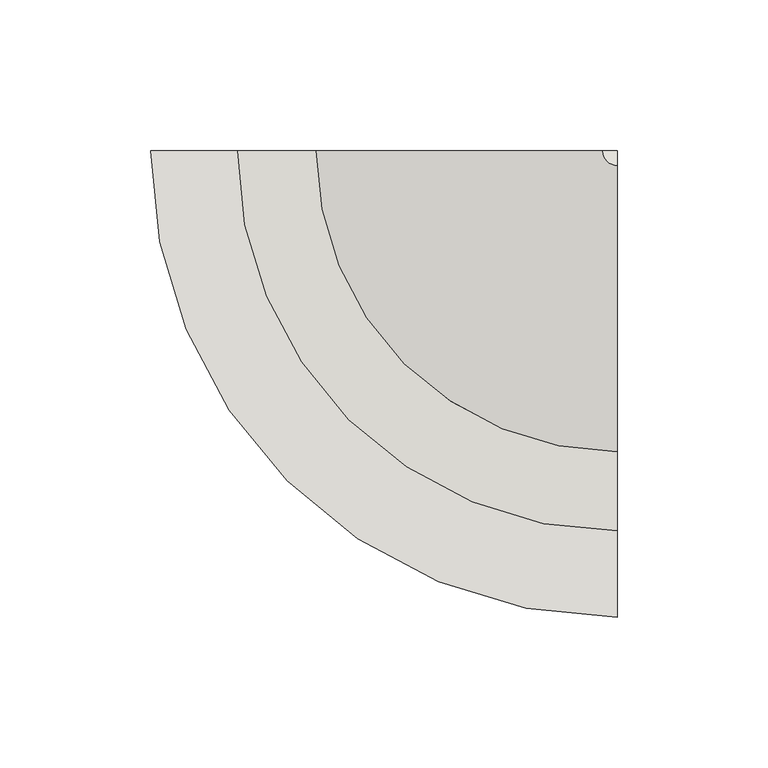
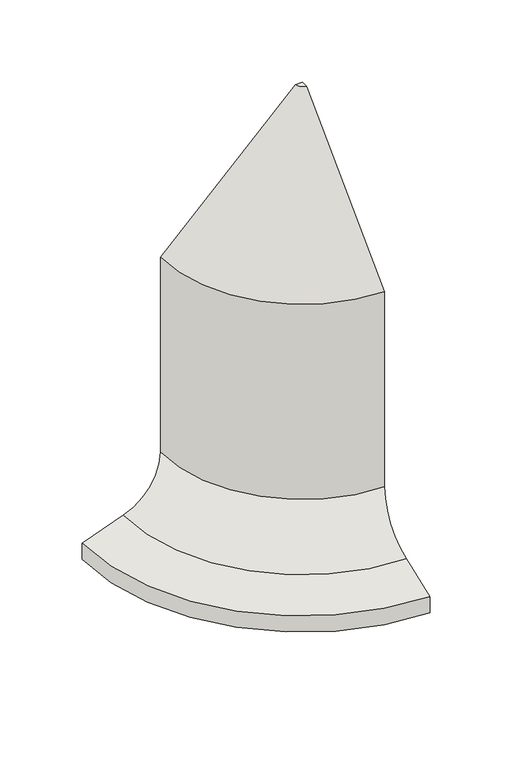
"""IFC4 building model written with IfcOpenShell, lengths in millimetres: wall geometry, GM_ST_UN_ACO kerb SS outside corner_ACO : S/S H300."""

from ifc_helpers import new_model, si_unit, point, frame, origin, place, context, project, spatial, polyline, circle_curve, ellipse_curve, trimmed, source, transform, mapped, element, save
from ifc_brep_helpers import plane_surface, cylinder_surface, revolved_surface, advanced_brep


def wall_d3cf1265(model_context):
    return source(origin(), model_context, "Body", "AdvancedBrep", [
        advanced_brep(
        [(-154.9291966, 0.0, 0.0), (-154.9291966, 0.0, 11.977476), (-126.1987698, 0.0, 22.4886008), (-99.9420231, 0.0, 60.0535178), (-99.9420231, 0.0, 204.9637441), (-4.952669, 0.0, 299.9530982), (0.0, 0.0, 299.9530982), (0.0, 0.0, 0.0), (0.0, -154.9291966, 0.0), (0.0, -4.952669, 299.9530982), (0.0, -99.9420231, 204.9637441), (0.0, -99.9420231, 60.0535178), (0.0, -126.1987698, 22.4886008), (0.0, -154.9291966, 11.977476)],
        [
            (0, 1),
            (1, 2),
            (2, 3, circle_curve(frame((-139.9420231, 0.0, 60.0535178), z_axis=(0.0, -1.0, 0.0), x_axis=(1.0, 0.0, 0.0)), 40.0)),
            (3, 4),
            (4, 5),
            (5, 6),
            (6, 7),
            (7, 0),
            (8, 7),
            (6, 9),
            (9, 10),
            (10, 11),
            (11, 12, circle_curve(frame((0.0, -139.9420231, 60.0535178), z_axis=(-1.0, 0.0, 0.0), x_axis=(0.0, 1.0, 0.0)), 40.0)),
            (12, 13),
            (13, 8),
            (13, 1, circle_curve(frame((0.0, 0.0, 11.977476), z_axis=(0.0, 0.0, -1.0), x_axis=(-1.0, 0.0, 0.0)), 154.9291966)),
            (0, 8, circle_curve(frame((0.0, 0.0, 0.0), z_axis=(0.0, 0.0, 1.0), x_axis=(-1.0, 0.0, 0.0)), 154.9291966)),
            (12, 2, circle_curve(frame((0.0, 0.0, 22.4886008), z_axis=(0.0, 0.0, -1.0), x_axis=(-1.0, 0.0, 0.0)), 126.1987698)),
            (11, 3, circle_curve(frame((0.0, 0.0, 60.0535178), z_axis=(0.0, 0.0, -1.0), x_axis=(-1.0, 0.0, 0.0)), 99.9420231)),
            (10, 4, circle_curve(frame((0.0, 0.0, 204.9637441), z_axis=(0.0, 0.0, -1.0), x_axis=(-1.0, 0.0, 0.0)), 99.9420231)),
            (9, 5, circle_curve(frame((0.0, 0.0, 299.9530982), z_axis=(0.0, 0.0, -1.0), x_axis=(-1.0, 0.0, 0.0)), 4.952669)),
        ],
        [
            plane_surface(frame((0.0, 0.0, 840.0), z_axis=(0.0, 1.0, 0.0), x_axis=(-1.0, 0.0, 0.0))),
            plane_surface(frame((0.0, 0.0, 840.0), z_axis=(1.0, 0.0, 0.0), x_axis=(0.0, -1.0, 0.0))),
            cylinder_surface(frame((0.0, 0.0, 840.0), z_axis=(0.0, 0.0, 1.0), x_axis=(-1.0, 0.0, 0.0)), 154.9291966),
            revolved_surface(polyline([(-154.9291966, 0.0, 11.977476), (-126.1987698, 0.0, 22.4886008)]), (0.0, 0.0, 840.0), (0.0, 0.0, 1.0)),
            revolved_surface(trimmed(ellipse_curve(frame((-139.9420231, 0.0, 60.0535178), z_axis=(0.0, -1.0, 0.0), x_axis=(1.0, 0.0, 0.0)), 40.0, 40.0), [point((-126.1987698, 0.0, 22.4886008))], [point((-99.9420231, 0.0, 60.0535178))], True, "CARTESIAN"), (0.0, 0.0, 840.0), (0.0, 0.0, 1.0)),
            cylinder_surface(frame((0.0, 0.0, 840.0), z_axis=(0.0, 0.0, 1.0), x_axis=(-1.0, 0.0, 0.0)), 99.9420231),
            revolved_surface(polyline([(-99.9420231, 0.0, 204.9637441), (-4.952669, 0.0, 299.9530982)]), (0.0, 0.0, 840.0), (0.0, 0.0, 1.0)),
            plane_surface(frame((0.0, 0.0, 299.9530982), z_axis=(0.0, 0.0, 1.0), x_axis=(-1.0, 0.0, 0.0))),
            plane_surface(frame((0.0, 0.0, 0.0), z_axis=(0.0, 0.0, -1.0), x_axis=(-1.0, 0.0, 0.0))),
        ],
        [
            (0, [[1, 2, 3, 4, 5, 6, 7, 8]]),
            (1, [[9, -7, 10, 11, 12, 13, 14, 15]]),
            (2, [[16, -1, 17, -15]]),
            (3, [[18, -2, -16, -14]]),
            (4, [[19, -3, -18, -13]]),
            (5, [[20, -4, -19, -12]]),
            (6, [[21, -5, -20, -11]]),
            (7, [[-6, -21, -10]]),
            (8, [[-17, -8, -9]]),
        ],
    ),
    ])


if __name__ == "__main__":
    model = new_model("IFC4")
    model_context = context("Model", 3, world=origin())
    ifc_project = project(units=[si_unit("LENGTHUNIT", "METRE", prefix="MILLI")], contexts=[model_context])
    site = spatial("IfcSite", under=ifc_project)
    building = spatial("IfcBuilding", under=site)
    placement = place(None, origin())
    wall_shape = wall_d3cf1265(model_context)
    element("IfcWall", 1, ObjectType="GM_ST_UN_ACO kerb SS outside corner_ACO : S/S H300", at=placement, inside=building, context=model_context, shape_type="MappedRepresentation", body=[
        mapped(wall_shape, transform((0.0, 0.0, 0.0), x_axis=(1.0, 0.0, 0.0), y_axis=(0.0, 1.0, 0.0), z_axis=(0.0, 0.0, 1.0))),
    ])
    save(model, "model.ifc")
